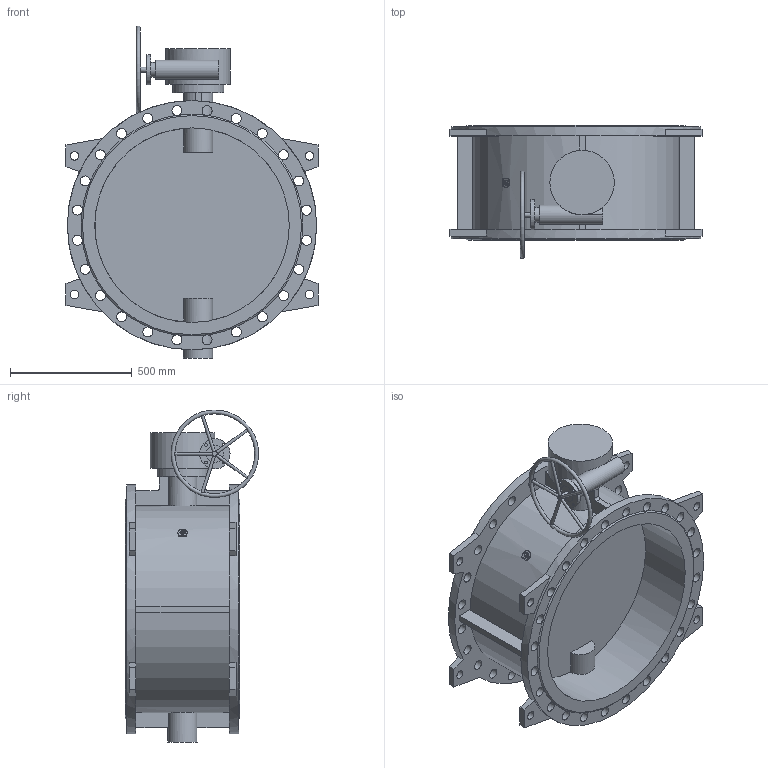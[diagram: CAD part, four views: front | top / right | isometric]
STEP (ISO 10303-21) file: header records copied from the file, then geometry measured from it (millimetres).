
FILE_DESCRIPTION(('STEP AP203'), '1');
FILE_NAME('Çàòâîð 023F.Z DN800 PN16_ìàõ', '', ('UNSPECIFIED'), ('UNSPECIFIED'), 'ASCON STEP Converter 1.6', 'ASCON Math Kernel', '');
FILE_SCHEMA(('CONFIG_CONTROL_DESIGN'));
Length unit declared in the file: millimetre
Bounding box: 1036 x 547.33 x 1364.86 mm (x, y, z)
Volume: 99849614.2 mm3; surface area: 5441022.8 mm2
Topology: 1 solids, 1 shells, 197 faces, 677 edges, 452 vertices
Faces by surface type: cylinder 104, plane 90, cone 2, torus 1
Full cylindrical faces by diameter (mm): 12 x9, 18.5 x4, 20 x2, 23 x4, 35 x8, 41 x48, 60 x1, 70 x1, 80 x1, 120 x1, 125 x1, 210 x1, 265 x1, 800 x2, 1025 x2
Entity records: 14380 total; most frequent: CARTESIAN_POINT 6974, DIRECTION 1183, ORIENTED_EDGE 1168, EDGE_CURVE 584, AXIS2_PLACEMENT_3D 501, VERTEX_POINT 450, EDGE_LOOP 384, CIRCLE 304
